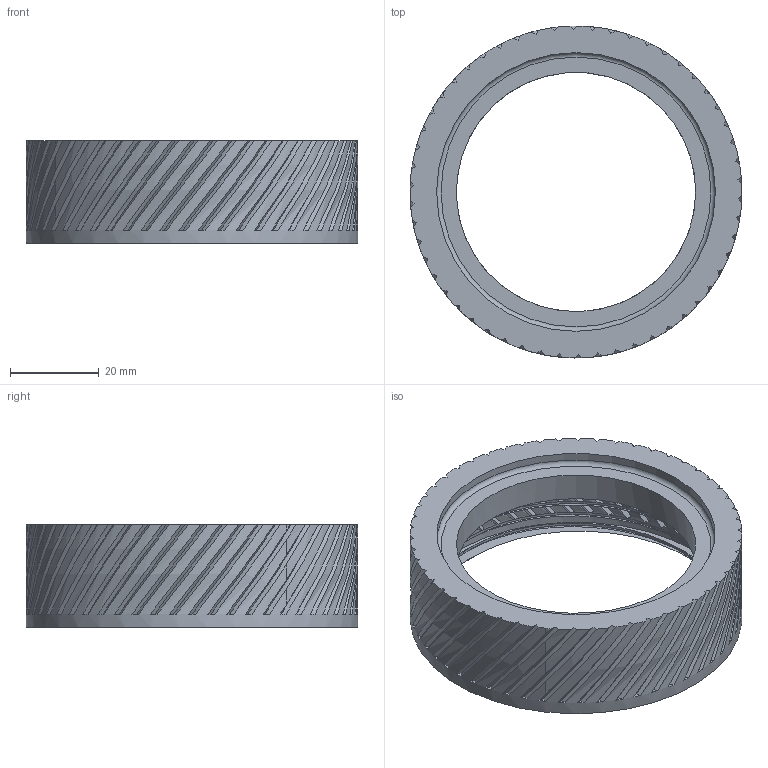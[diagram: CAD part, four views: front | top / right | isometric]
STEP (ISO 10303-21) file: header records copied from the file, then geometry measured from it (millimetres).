
FILE_DESCRIPTION(/* description */ ('STEP AP242','CAx-IF Rec.Pracs.---Representation and Presentation of Product Manufacturing Information (PMI)---4.0---2014-10-13','CAx-IF Rec.Pracs.---3D Tessellated Geometry---0.4---2014-09-14','2;1'),/* implementation_level */ '2;1');
FILE_NAME(/* name */ '6465bb497c5e517f9e04ef02',/* time_stamp */ '2023-05-18T05:44:42Z',/* author */ (''),/* organization */ (''),/* preprocessor_version */ 'ST-DEVELOPER v19.4',/* originating_system */ ' ',/* authorisation */ ' ');
FILE_SCHEMA (('AP242_MANAGED_MODEL_BASED_3D_ENGINEERING_MIM_LF { 1 0 10303 442 1 1 4 }'));
Length unit declared in the file: metre
Products named in the file (1): Base 24mm NoMagnet NoLug
Bounding box: 74.9 x 74.9 x 23.2 mm (x, y, z)
Volume: 30248.3 mm3; surface area: 15955.1 mm2
Topology: 1 solids, 1 shells, 224 faces, 655 edges, 437 vertices
Faces by surface type: bspline 132, plane 79, cylinder 8, cone 4, torus 1
Full cylindrical faces by diameter (mm): 54 x1, 62.9 x1, 74.9 x1
Entity records: 13829 total; most frequent: CARTESIAN_POINT 9500, ORIENTED_EDGE 1270, EDGE_CURVE 635, DIRECTION 456, VERTEX_POINT 426, B_SPLINE_CURVE_WITH_KNOTS 313, EDGE_LOOP 231, FACE_BOUND 231
